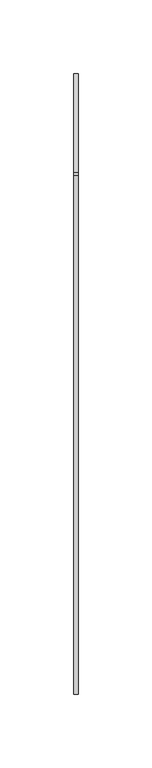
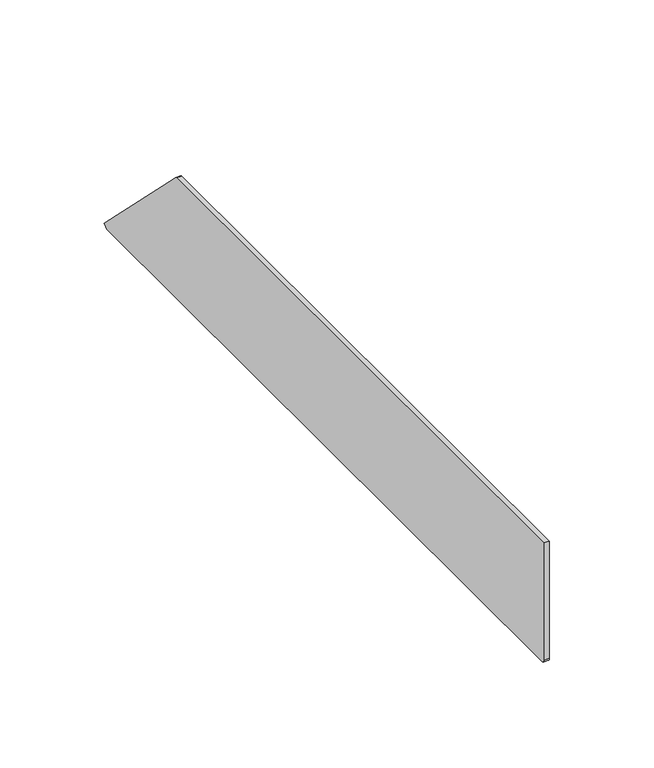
"""IFC4 building model written with IfcOpenShell, lengths in millimetres: cable carrier fitting geometry, Electrical_Installation_Hager_End-Piece : Electrical_Installation_Hager_End-Piece."""

from ifc_helpers import new_model, si_unit, point, frame, frame_2d, origin, place, context, project, spatial, polyline, circle_curve, trimmed, segment, composite_curve, outline, extrude, source, transform, mapped, element, save


def cable_carrier_fitting_a1d8f8d7(model_context):
    return source(origin(), model_context, "Body", "SweptSolid", [
        extrude(outline(composite_curve([segment(polyline([(-175.0, -33.0), (-175.0, 35.5), (176.7124549, 35.5)]), True, "CONTINUOUS"), segment(trimmed(circle_curve(frame_2d((175.5004738, 31.6648514)), 4.0220969), [point((176.7124549, 35.5))], [point((178.5142136, 34.3284271))], False, "CARTESIAN"), True, "CONTINUOUS"), segment(polyline([(178.5142136, 34.3284271), (245.7213203, -32.8786797), (243.6, -35.0), (-173.0, -35.0)]), True, "CONTINUOUS"), segment(trimmed(circle_curve(frame_2d((-173.0, -33.0)), 2.0), [point((-173.0, -35.0))], [point((-175.0, -33.0))], False, "CARTESIAN"), True, "CONTINUOUS")], self_intersect=False)), frame((0.0, 0.0, 0.0), z_axis=(1.0, 0.0, 0.0), x_axis=(0.0, 1.0, 0.0)), (0.0, 0.0, 1.0), 3.0),
    ])


if __name__ == "__main__":
    model = new_model("IFC4")
    model_context = context("Model", 3, world=origin())
    ifc_project = project(units=[si_unit("LENGTHUNIT", "METRE", prefix="MILLI")], contexts=[model_context])
    site = spatial("IfcSite", under=ifc_project)
    building = spatial("IfcBuilding", under=site)
    placement = place(None, origin())
    cable_carrier_fitting_shape = cable_carrier_fitting_a1d8f8d7(model_context)
    element("IfcCableCarrierFitting", 1, ObjectType="Electrical_Installation_Hager_End-Piece : Electrical_Installation_Hager_End-Piece", at=placement, inside=building, context=model_context, shape_type="MappedRepresentation", body=[
        mapped(cable_carrier_fitting_shape, transform((0.0, 0.0, 0.0), x_axis=(1.0, 0.0, 0.0), y_axis=(0.0, 1.0, 0.0), z_axis=(0.0, 0.0, 1.0))),
    ])
    save(model, "model.ifc")
